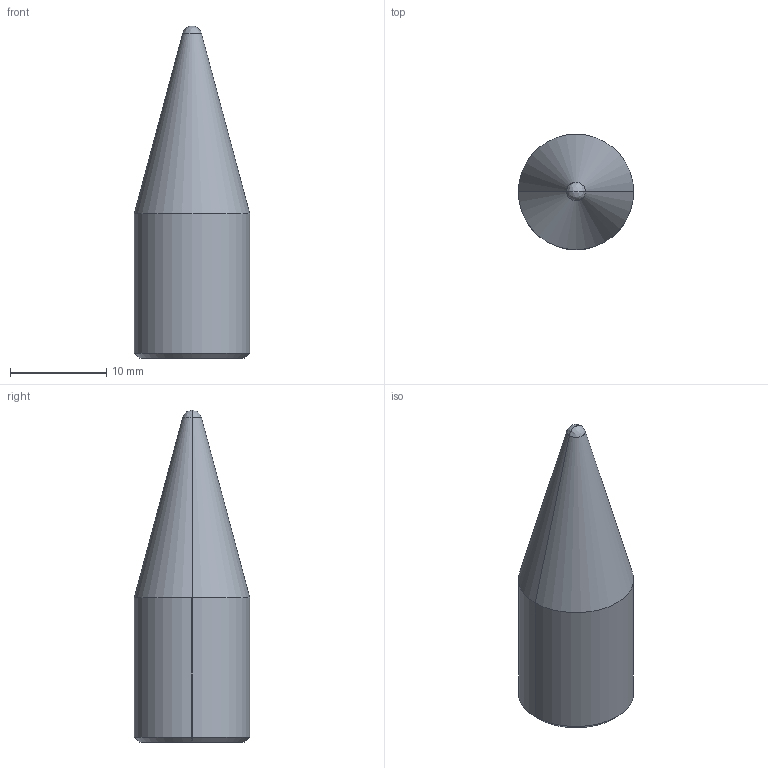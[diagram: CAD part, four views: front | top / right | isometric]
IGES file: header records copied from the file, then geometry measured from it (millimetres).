
Global section: file name: E:\UnigraphicsGraphicData\MISUMI_PRESS-PARTS\IGES\3d_snst12-b15_03107_r00.igs; native system: NX V5.0; preprocessor: UGS NX IGES V5.0; author: MISUMI; date: 20110105.162851; units: millimetre
Bounding box: 12 x 12 x 34.53 mm (x, y, z)
Surface area: 1324 mm2 (no closed solid volume)
Topology: 0 solids, 0 shells, 12 faces, 64 edges, 62 vertices
Faces by surface type: bspline 12
